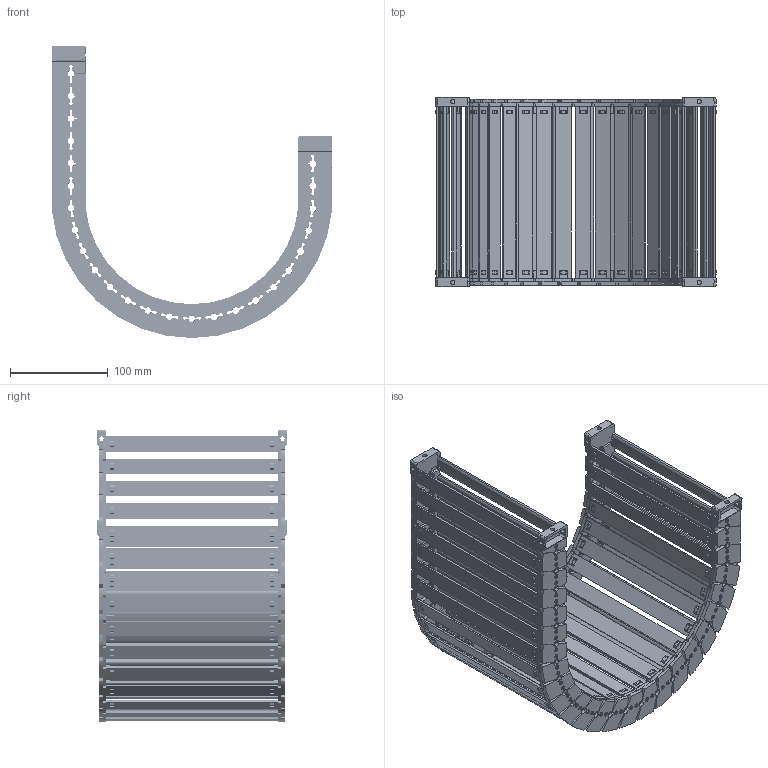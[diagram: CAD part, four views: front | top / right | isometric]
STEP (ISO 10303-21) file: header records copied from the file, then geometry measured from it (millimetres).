
FILE_DESCRIPTION((''),'2;1');
FILE_NAME('JY-28X175-R125_ASM','2026-05-04T14:12:24',('admin'),(''),'CREO PARAMETRIC BY PTC INC, 2021023','CREO PARAMETRIC BY PTC INC, 2021023','');
FILE_SCHEMA(('CONFIG_CONTROL_DESIGN'));
Length unit declared in the file: millimetre
Products named in the file (11): 28XL-L; 25-35XL-YP; 28XL-R; ASM0001_ASM; 28-LTT-A-L; 28-LTT-A-R; 28XL-LTT-A_ASM; 28-LTT-B-L; 28-LTT-B-R; 28XL-LTT-B_ASM; JY-28X175-R125_ASM
Assembly tree (38 placements, depth 3):
  JY-28X175-R125_ASM
    ASM0001_ASM  x24
      28XL-L
      25-35XL-YP
      28XL-R
    28XL-LTT-A_ASM
      28-LTT-A-L
      25-35XL-YP  x2
      28-LTT-A-R
    28XL-LTT-B_ASM
      28-LTT-B-L
      25-35XL-YP  x2
      28-LTT-B-R
Bounding box: 287.57 x 194.5 x 299.79 mm (x, y, z)
Volume: 735112.1 mm3; surface area: 524218.9 mm2
Topology: 104 solids, 104 shells, 8438 faces, 25084 edges, 16750 vertices
Faces by surface type: plane 5532, cone 1522, cylinder 1210, bspline 174
Entity records: 29143 total; most frequent: CARTESIAN_POINT 9496, ORIENTED_EDGE 4352, DIRECTION 3667, EDGE_CURVE 2176, VERTEX_POINT 1454, VECTOR 1365, LINE 1365, AXIS2_PLACEMENT_3D 1151
